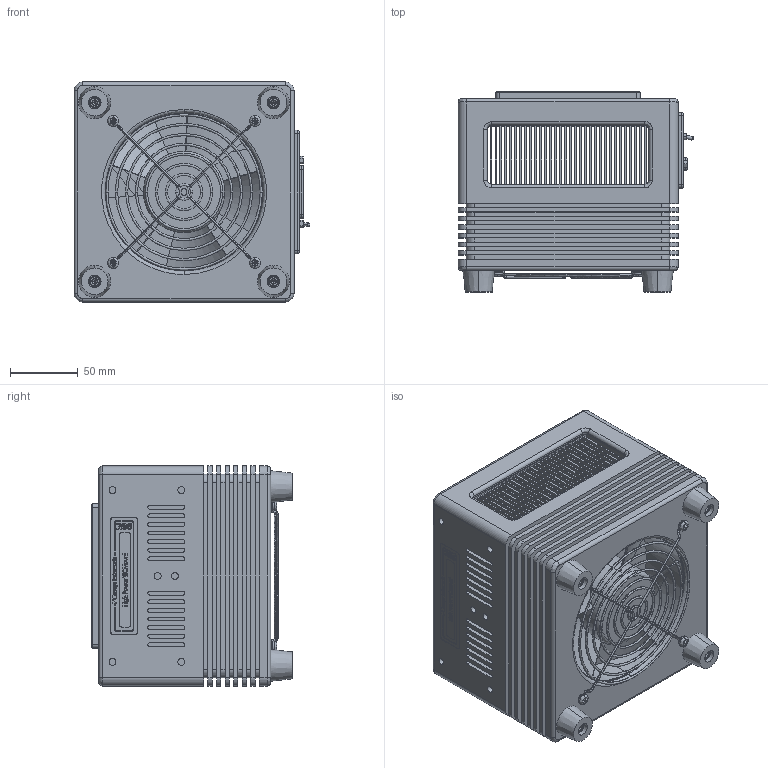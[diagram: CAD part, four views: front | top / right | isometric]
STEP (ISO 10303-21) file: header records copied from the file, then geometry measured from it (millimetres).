
FILE_DESCRIPTION (( 'STEP AP214' ), '1' );
FILE_NAME ('286-TECMount.STEP', '2024-03-06T21:07:55', ( '' ), ( '' ), 'SwSTEP 2.0', 'SolidWorks 2021', '' );
FILE_SCHEMA (( 'AUTOMOTIVE_DESIGN' ));
Length unit declared in the file: inch
Products named in the file (1): 286-TECMount
Bounding box: 174.3 x 147.98 x 162.56 mm (x, y, z)
Volume: 2429239.3 mm3; surface area: 734841.3 mm2
Topology: 6 solids, 6 shells, 3219 faces, 8223 edges, 5124 vertices
Faces by surface type: plane 1599, bspline 624, cylinder 620, cone 376
Entity records: 149311 total; most frequent: CARTESIAN_POINT 49505, ORIENTED_EDGE 16030, DIRECTION 13518, EDGE_CURVE 8015, VERTEX_POINT 5124, LINE 4732, VECTOR 4732, AXIS2_PLACEMENT_3D 4393
